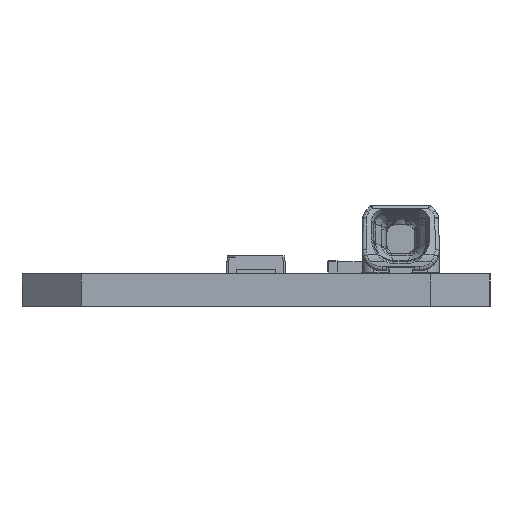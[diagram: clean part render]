
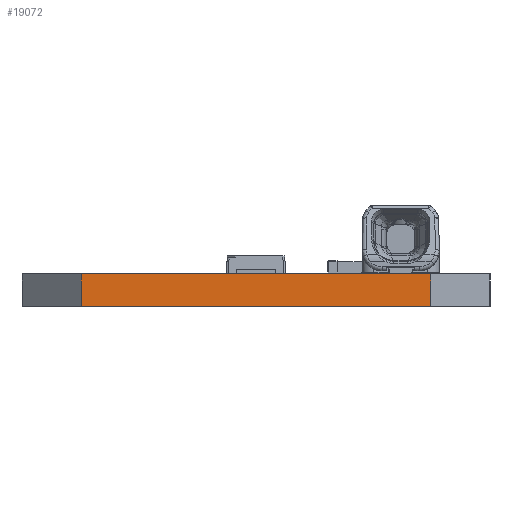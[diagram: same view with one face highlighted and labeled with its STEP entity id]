
A CAD part, left-side view. The second image highlights one B-rep face of the part: STEP entity #19072.
In plain terms, the highlighted planar face has unit normal (-1, 0, 0).
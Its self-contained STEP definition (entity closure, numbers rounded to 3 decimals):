
#711=DIRECTION('',(0.,1.,0.));
#712=VECTOR('',#711,17.6);
#713=CARTESIAN_POINT('',(-69.5,-8.8,0.));
#714=LINE('',#713,#712);
#718=DIRECTION('',(0.,0.,1.));
#719=VECTOR('',#718,1.65);
#720=CARTESIAN_POINT('',(-69.5,8.8,0.));
#721=LINE('',#720,#719);
#725=DIRECTION('',(0.,-1.,0.));
#726=VECTOR('',#725,17.6);
#727=CARTESIAN_POINT('',(-69.5,8.8,1.65));
#728=LINE('',#727,#726);
#732=DIRECTION('',(0.,0.,1.));
#733=VECTOR('',#732,1.65);
#734=CARTESIAN_POINT('',(-69.5,-8.8,0.));
#735=LINE('',#734,#733);
#16036=CARTESIAN_POINT('',(-69.5,-8.8,1.65));
#16037=VERTEX_POINT('',#16036);
#16038=CARTESIAN_POINT('',(-69.5,8.8,1.65));
#16039=VERTEX_POINT('',#16038);
#16237=CARTESIAN_POINT('',(-69.5,8.8,0.));
#16238=VERTEX_POINT('',#16237);
#16239=CARTESIAN_POINT('',(-69.5,-8.8,0.));
#16240=VERTEX_POINT('',#16239);
#19060=CARTESIAN_POINT('',(-69.5,0.,0.825));
#19061=DIRECTION('',(1.,0.,0.));
#19062=DIRECTION('',(0.,0.,1.));
#19063=AXIS2_PLACEMENT_3D('',#19060,#19061,#19062);
#19064=PLANE('',#19063);
#19066=ORIENTED_EDGE('',*,*,#19065,.F.);
#19067=ORIENTED_EDGE('',*,*,#18890,.T.);
#19068=ORIENTED_EDGE('',*,*,#19045,.T.);
#19069=ORIENTED_EDGE('',*,*,#18419,.T.);
#19070=EDGE_LOOP('',(#19066,#19067,#19068,#19069));
#19071=FACE_OUTER_BOUND('',#19070,.F.);
#18419=EDGE_CURVE('',#16039,#16037,#728,.T.);
#18890=EDGE_CURVE('',#16240,#16238,#714,.T.);
#19045=EDGE_CURVE('',#16238,#16039,#721,.T.);
#19065=EDGE_CURVE('',#16240,#16037,#735,.T.);
#19072=ADVANCED_FACE('',(#19071),#19064,.F.);
